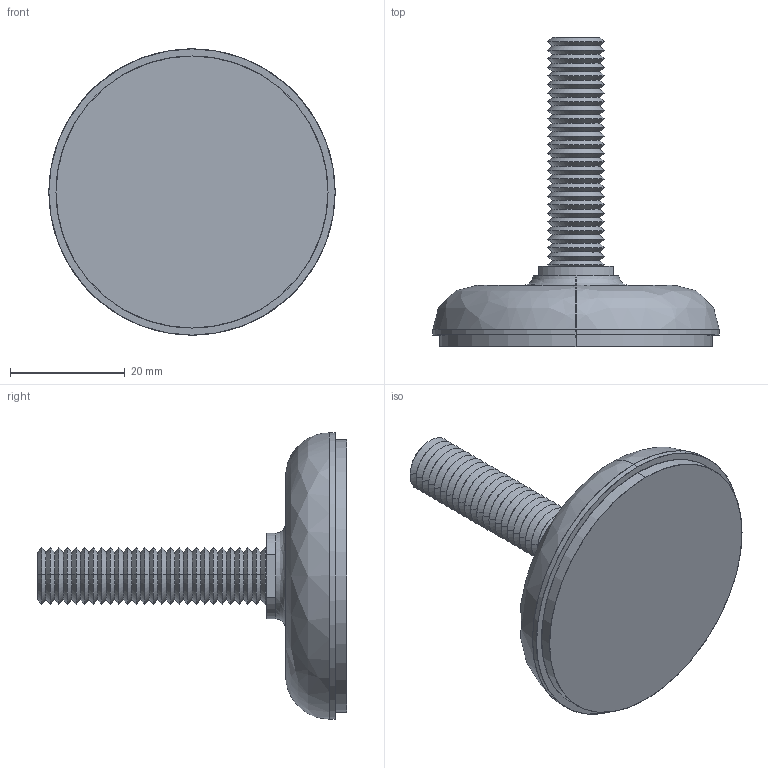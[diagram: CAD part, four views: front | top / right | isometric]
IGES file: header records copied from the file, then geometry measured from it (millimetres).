
Start section: SolidWorks IGES file using analytic representation for surfaces
Global section: file name: C:\Documents and Settings\IANO\Desktop\Temp File\Process pending\EXISTING\34780_v2\34780_v2_20170626_IGES\34780.W0106.igs; native system: SolidWorks 2009; preprocessor: SolidWorks 2009; author: IANO; date: 170626.122254; units: millimetre
Bounding box: 50 x 54 x 50 mm (x, y, z)
Surface area: 16658.6 mm2 (no closed solid volume)
Topology: 0 solids, 0 shells, 172 faces, 1634 edges, 1634 vertices
Faces by surface type: revolution 144, bspline 28
